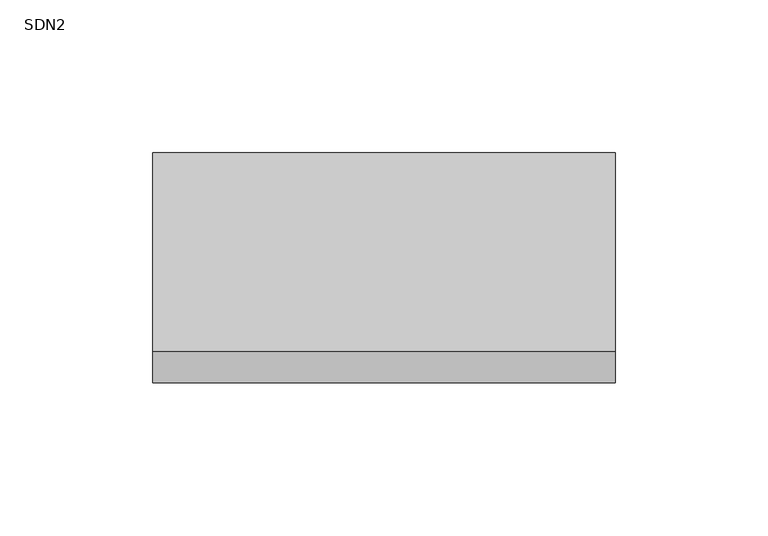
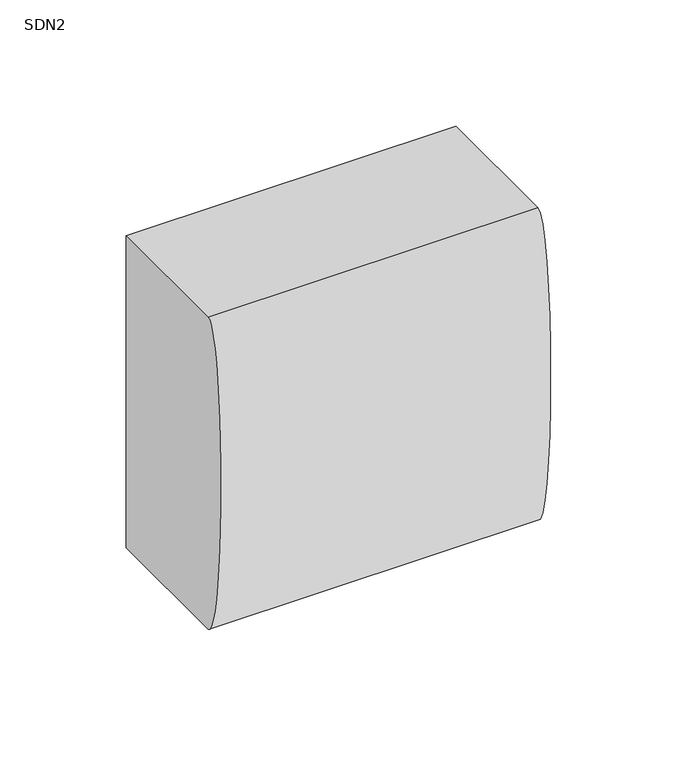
"""IFC4 building model written with IfcOpenShell, lengths in millimetres: proxy geometry, КНС_КоробкаРаспределительнаяSDN_ILC_DKC : SDN2."""

from ifc_helpers import new_model, si_unit, point, frame, origin, place, context, project, spatial, ellipse_curve, trimmed, source, transform, mapped, element, save
from ifc_brep_helpers import plane_surface, extruded_surface, advanced_brep


def sdn2_b9b71641(model_context):
    return source(origin(), model_context, "Body", "AdvancedBrep", [
        advanced_brep(
        [(75.5, -65.0, 75.5), (75.5, -65.0, -75.5), (75.5, 0.0, -75.5), (75.5, 0.0, 75.5), (-75.5, -65.0, 75.5), (-75.5, 0.0, 75.5), (-75.5, 0.0, -75.5), (-75.5, -65.0, -75.5)],
        [
            (0, 1, ellipse_curve(frame((75.5, -65.0, 0.0), z_axis=(1.0, 0.0, 0.0), x_axis=(0.0, 0.0, -1.0)), 75.5, 10.0)),
            (1, 2),
            (2, 3),
            (3, 0),
            (4, 5),
            (5, 6),
            (6, 7),
            (7, 4, ellipse_curve(frame((-75.5, -65.0, 0.0), z_axis=(-1.0, 0.0, 0.0), x_axis=(0.0, 0.0, -1.0)), 75.5, 10.0)),
            (0, 4),
            (7, 1),
            (6, 2),
            (5, 3),
        ],
        [
            plane_surface(frame((75.5, -65.0, -75.5), z_axis=(1.0, 0.0, 0.0), x_axis=(0.0, 1.0, 0.0))),
            plane_surface(frame((-75.5, -65.0, -75.5), z_axis=(-1.0, 0.0, 0.0), x_axis=(0.0, -1.0, 0.0))),
            extruded_surface(trimmed(ellipse_curve(frame((-226.5, -65.0, 0.0), z_axis=(1.0, 0.0, 0.0), x_axis=(0.0, 0.0, -1.0)), 75.5, 10.0), [point((-226.5, -65.0, 75.5))], [point((-226.5, -65.0, -75.5))], True, "CARTESIAN"), (151.0, 0.0, 0.0), 151.0),
            plane_surface(frame((75.5, -65.0, -75.5), z_axis=(0.0, 0.0, -1.0), x_axis=(-1.0, 0.0, 0.0))),
            plane_surface(frame((75.5, 0.0, -75.5), z_axis=(0.0, 1.0, 0.0), x_axis=(-1.0, 0.0, 0.0))),
            plane_surface(frame((75.5, 0.0, 75.5), z_axis=(0.0, 0.0, 1.0), x_axis=(-1.0, 0.0, 0.0))),
        ],
        [
            (0, [[1, 2, 3, 4]]),
            (1, [[5, 6, 7, 8]]),
            (2, [[-1, 9, -8, 10]]),
            (3, [[-2, -10, -7, 11]]),
            (4, [[-3, -11, -6, 12]]),
            (5, [[-4, -12, -5, -9]]),
        ],
    ),
    ])


if __name__ == "__main__":
    model = new_model("IFC4")
    model_context = context("Model", 3, world=origin())
    ifc_project = project(units=[si_unit("LENGTHUNIT", "METRE", prefix="MILLI")], contexts=[model_context])
    site = spatial("IfcSite", under=ifc_project)
    building = spatial("IfcBuilding", under=site)
    placement = place(None, origin())
    sdn2_shape = sdn2_b9b71641(model_context)
    element("IfcBuildingElementProxy", 1, Name="КНС_КоробкаРаспределительнаяSDN_ILC_DKC : SDN2", ObjectType="КНС_КоробкаРаспределительнаяSDN_ILC_DKC : SDN2", at=placement, inside=building, context=model_context, shape_type="MappedRepresentation", body=[
        mapped(sdn2_shape, transform((0.0, 0.0, 0.0), x_axis=(1.0, 0.0, 0.0), y_axis=(0.0, 1.0, 0.0), z_axis=(0.0, 0.0, 1.0))),
    ])
    save(model, "model.ifc")
